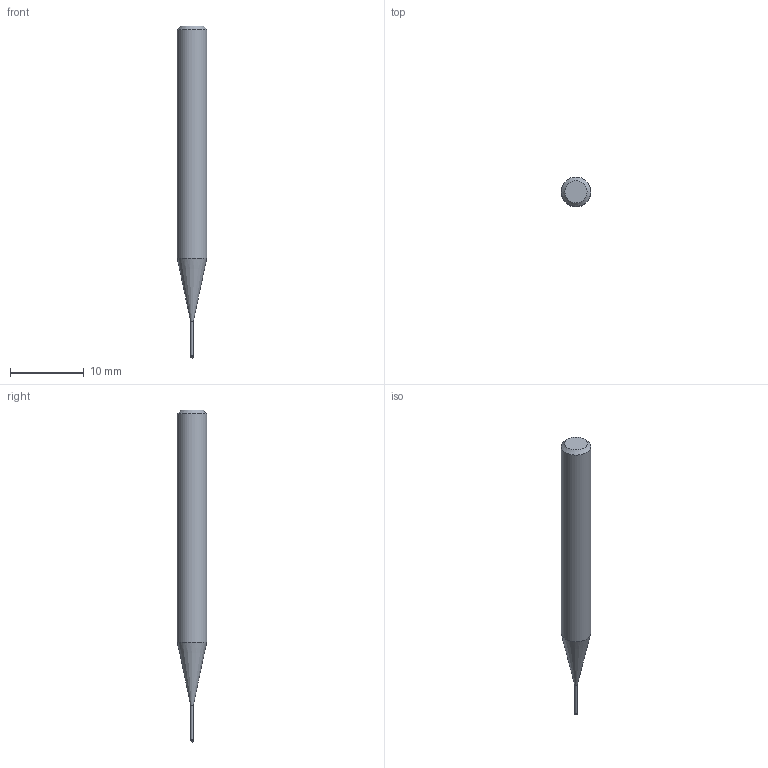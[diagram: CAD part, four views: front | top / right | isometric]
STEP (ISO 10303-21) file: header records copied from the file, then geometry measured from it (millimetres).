
FILE_DESCRIPTION((''),'2;1');
FILE_NAME('C:\Users\nsx150\AppData\Local\Temp\Mastercam 2021\3SYKECWX22\TEMP.step','2021-04-22T10:00:01',(''),(''),'STEP Write','Mastercam 2021 ... CNC Software, Inc.','');
FILE_SCHEMA(('AUTOMOTIVE_DESIGN'));
Length unit declared in the file: millimetre
Products named in the file (1): None
Bounding box: 4 x 4 x 45 mm (x, y, z)
Volume: 433.8 mm3; surface area: 469.9 mm2
Topology: 2 solids, 2 shells, 9 faces, 14 edges, 8 vertices
Faces by surface type: plane 3, cylinder 3, cone 2, sphere 1
Full cylindrical faces by diameter (mm): 0.37 x1, 0.4 x1, 4 x1
Entity records: 211 total; most frequent: DIRECTION 36, CARTESIAN_POINT 25, AXIS2_PLACEMENT_3D 18, ORIENTED_EDGE 14, EDGE_LOOP 14, STYLED_ITEM 12, ADVANCED_FACE 9, FACE_BOUND 8
